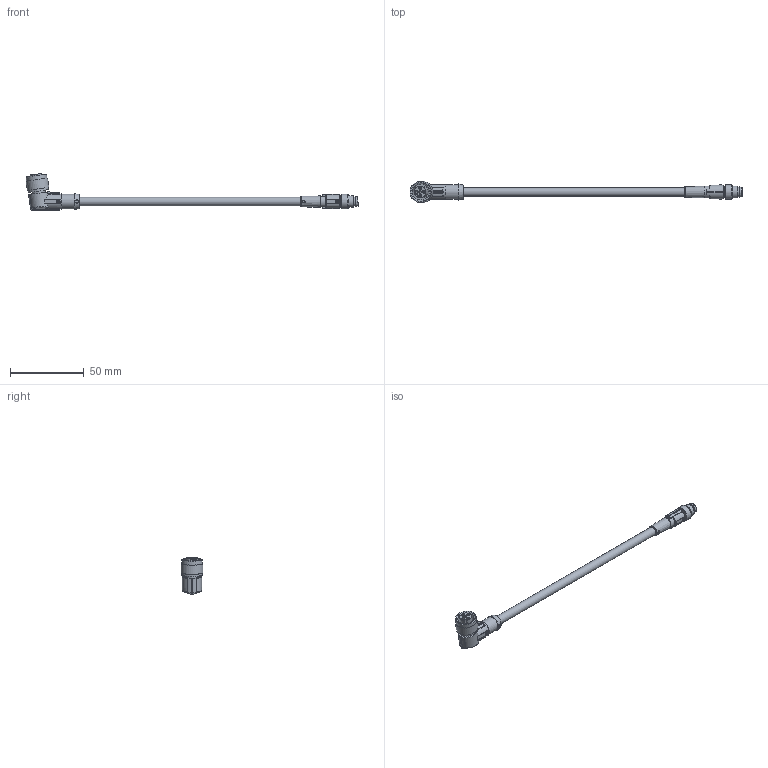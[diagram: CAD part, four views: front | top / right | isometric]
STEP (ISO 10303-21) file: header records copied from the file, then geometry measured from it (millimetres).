
FILE_DESCRIPTION( ( 'Unknown' ), '1' );
FILE_NAME( 'X:/SolidEdge/Models/Dokumentationen/_Standardteile/Verbindungskabel/Vereinfachte Modelle/Neutralformate/ESW 33S_KSG32SH.stp', 'Unknown', ( 'Unknown' ), ( 'Unknown' ), 'PSStep 14.0', 'Unknown', ' ' );
FILE_SCHEMA( ( 'AUTOMOTIVE_DESIGN { 1 0 10303 214 1 1 1 1 }' ) );
Length unit declared in the file: millimetre
Products named in the file (1): 1682362
Bounding box: 224.84 x 14.74 x 25.19 mm (x, y, z)
Volume: 10768.3 mm3; surface area: 7185.9 mm2
Topology: 1 solids, 1 shells, 332 faces, 837 edges, 555 vertices
Faces by surface type: plane 148, cylinder 88, extrusion 56, cone 17, bspline 14, torus 9
Full cylindrical faces by diameter (mm): 1 x3, 1.2 x4, 1.8 x2, 5.7 x1, 5.9 x1, 6.35 x2, 6.5 x1, 8 x2, 9.3 x3, 10 x2, 10.6 x1, 11 x1, 12.671 x1, 14 x2, 14.8 x1
Entity records: 19004 total; most frequent: CARTESIAN_POINT 8897, ORIENTED_EDGE 1546, DIRECTION 1348, EDGE_CURVE 773, VERTEX_POINT 542, AXIS2_PLACEMENT_3D 478, EDGE_LOOP 431, VECTOR 392
